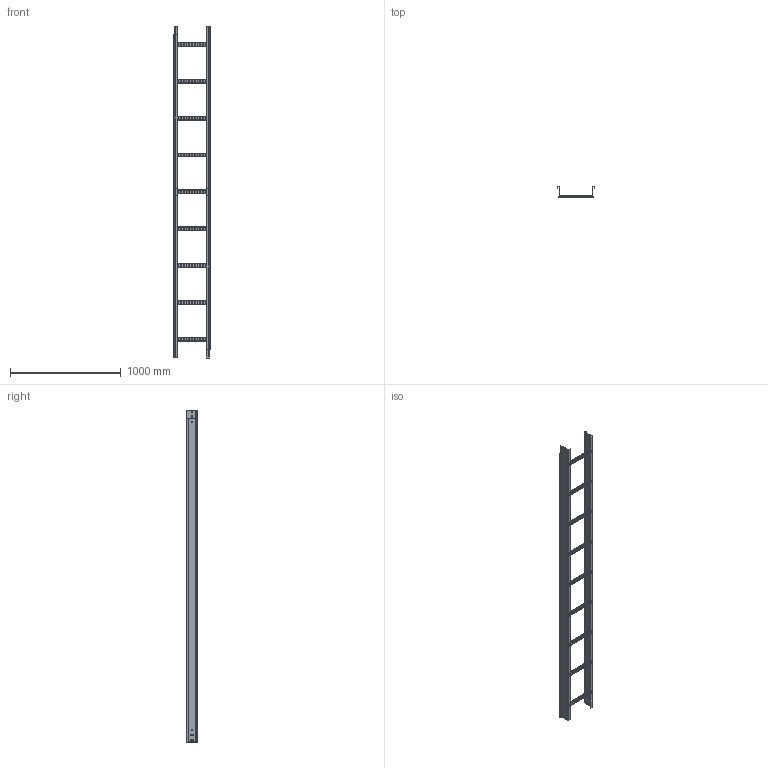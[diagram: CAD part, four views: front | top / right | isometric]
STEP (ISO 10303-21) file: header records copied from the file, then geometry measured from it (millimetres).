
FILE_DESCRIPTION (( 'STEP AP203' ), '1' );
FILE_NAME ('300X100x1,5.step', '2023-08-01T07:29:33', ( '' ), ( '' ), 'SwSTEP 2.0', 'SolidWorks 2022', '' );
FILE_SCHEMA (( 'CONFIG_CONTROL_DESIGN' ));
Length unit declared in the file: millimetre
Products named in the file (3): Montante FER GS_100x1,5; 300X100x1,5; Travesaño RAT35 FER GS_300
Assembly tree (11 placements, depth 2):
  300X100x1,5
    Montante FER GS_100x1,5  x2
    Travesaño RAT35 FER GS_300  x9
Bounding box: 332 x 101.5 x 3000 mm (x, y, z)
Volume: 268893.5 mm3; surface area: 2223684.7 mm2
Topology: 9 solids, 13 shells, 1170 faces, 2982 edges, 1872 vertices
Faces by surface type: plane 652, cylinder 370, torus 144, bspline 4
Entity records: 7345 total; most frequent: CARTESIAN_POINT 1546, DIRECTION 1151, ORIENTED_EDGE 1062, EDGE_CURVE 539, AXIS2_PLACEMENT_3D 417, VERTEX_POINT 348, LINE 317, VECTOR 317
